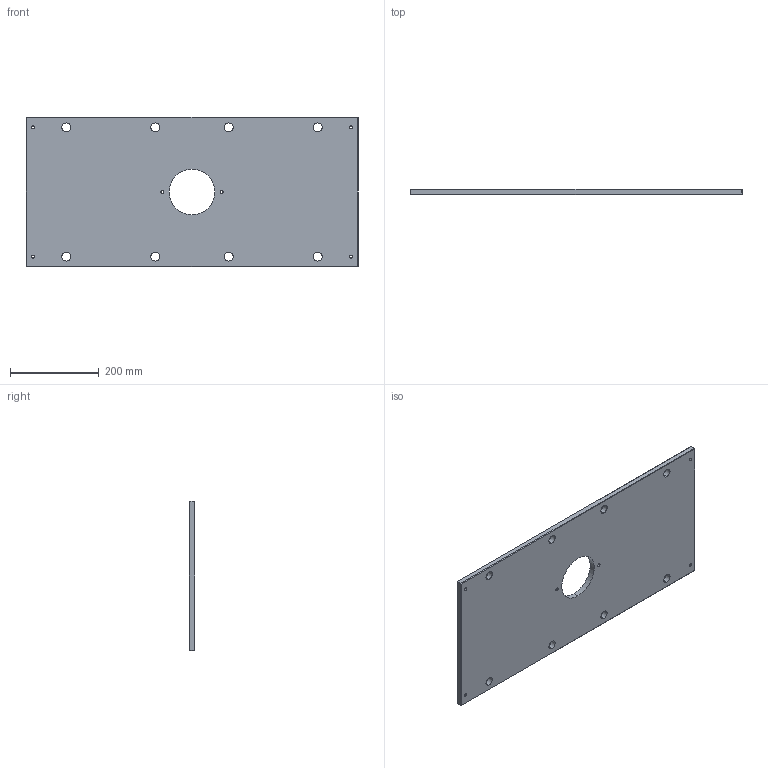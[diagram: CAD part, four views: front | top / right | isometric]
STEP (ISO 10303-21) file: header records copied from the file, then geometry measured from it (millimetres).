
FILE_DESCRIPTION (( 'STEP AP214' ), '1' );
FILE_NAME ('ME-0619-CH-1329.STEP', '2020-02-12T13:53:41', ( '' ), ( '' ), 'SwSTEP 2.0', 'SolidWorks 2018', '' );
FILE_SCHEMA (( 'AUTOMOTIVE_DESIGN' ));
Length unit declared in the file: inch
Products named in the file (1): ME-0619-CH-1329
Bounding box: 746.12 x 12.7 x 336.55 mm (x, y, z)
Volume: 3043905.8 mm3; surface area: 516274.5 mm2
Topology: 1 solids, 1 shells, 68 faces, 162 edges, 96 vertices
Faces by surface type: cylinder 30, plane 26, cone 12
Entity records: 2050 total; most frequent: DIRECTION 372, CARTESIAN_POINT 327, ORIENTED_EDGE 324, EDGE_CURVE 162, AXIS2_PLACEMENT_3D 141, EDGE_LOOP 98, VERTEX_POINT 96, VECTOR 90
